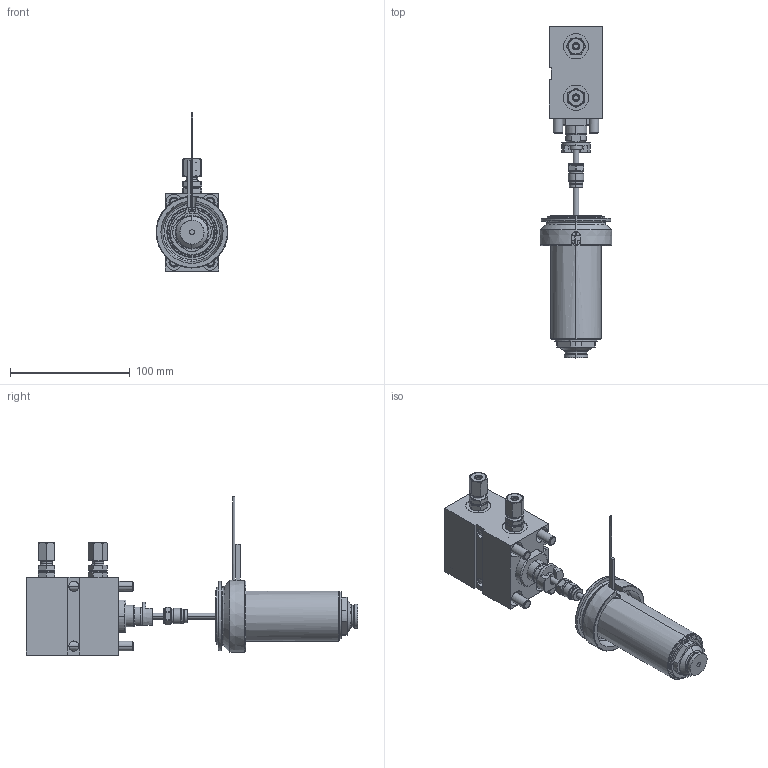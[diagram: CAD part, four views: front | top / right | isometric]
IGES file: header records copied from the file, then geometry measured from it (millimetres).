
Start section: Write IGES format                                    datakit 2008 (c)
Global section: file name: Unknown; native system: DATAKIT Converter; preprocessor: Unknown; author: Unknown; organization: Unknown; date: 950613.180003; units: millimetre
Bounding box: 59.93 x 277.5 x 132.15 mm (x, y, z)
Surface area: 152886.9 mm2 (no closed solid volume)
Topology: 0 solids, 0 shells, 799 faces, 3612 edges, 3594 vertices
Faces by surface type: revolution 516, bspline 283
